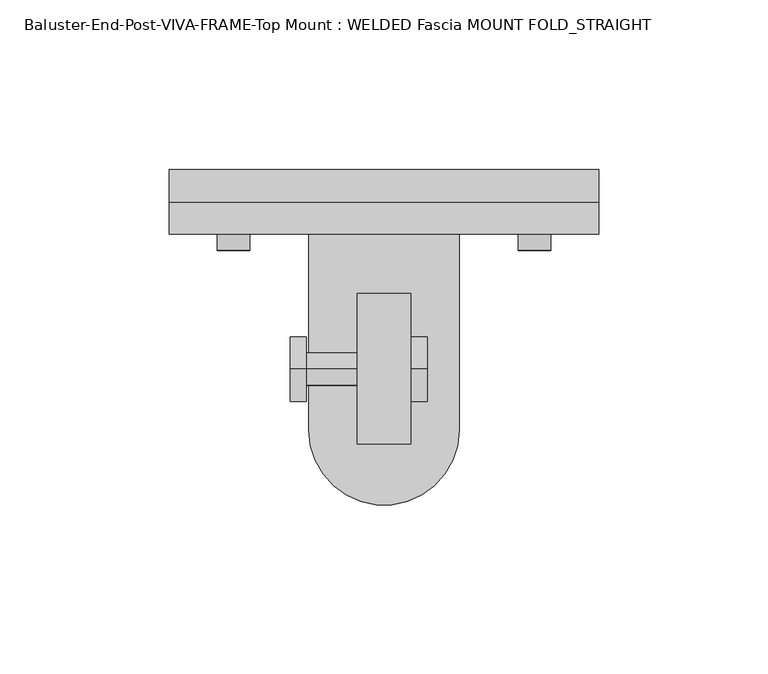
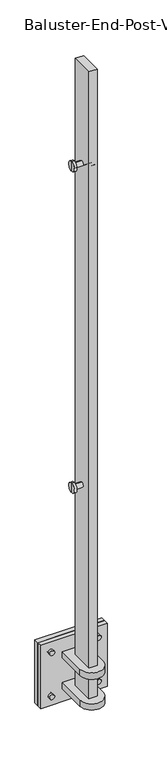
"""IFC4 building model written with IfcOpenShell, lengths in millimetres: proxy geometry, Baluster-End-Post-VIVA-FRAME-Top Mount : WELDED Fascia MOUNT FOLD_STRAIGHT."""

from ifc_helpers import new_model, si_unit, point, frame, frame_2d, origin, place, context, project, spatial, polyline, circle_curve, trimmed, segment, composite_curve, outline, extrude, source, transform, mapped, element, save
from ifc_brep_helpers import plane_surface, cylinder_surface, advanced_brep


def baluster_end_post_viva_frame_top_mount_welded_fascia_mount_7cfda481(model_context):
    return source(origin(), model_context, "Body", "SolidModel", [
        extrude(outline(polyline([(7.9375, -153.1423118), (-7.9375, -153.1423118), (-7.9375, -108.6923118), (7.9375, -108.6923118), (7.9375, -153.1423118)])), frame((0.0, 0.0, -183.7786931), z_axis=(0.0, 0.0, 1.0), x_axis=(1.0, 0.0, 0.0)), (0.0, 0.0, 1.0), 1269.9476704),
        extrude(outline(composite_curve([segment(polyline([(-22.225, -148.7552651), (-22.225, -90.8543584), (22.225, -90.8543584), (22.225, -148.7552651)]), True, "CONTINUOUS"), segment(trimmed(circle_curve(frame_2d((0.0, -148.7552651)), 22.225), [point((22.225, -148.7552651))], [point((-22.225, -148.7552651))], False, "CARTESIAN"), True, "CONTINUOUS")], self_intersect=False)), frame((0.0, 0.0, -190.0345072), z_axis=(0.0, 0.0, 1.0), x_axis=(1.0, 0.0, 0.0)), (0.0, 0.0, 1.0), 12.7),
        extrude(outline(composite_curve([segment(polyline([(22.225, -90.8543584), (22.225, -148.7552651)]), True, "CONTINUOUS"), segment(trimmed(circle_curve(frame_2d((0.0, -148.7552651)), 22.225), [point((22.225, -148.7552651))], [point((-22.225, -148.7552651))], False, "CARTESIAN"), True, "CONTINUOUS"), segment(polyline([(-22.225, -148.7552651), (-22.225, -90.8543584), (22.225, -90.8543584)]), True, "CONTINUOUS")], self_intersect=False)), frame((0.0, 0.0, -128.1093072), z_axis=(0.0, 0.0, 1.0), x_axis=(1.0, 0.0, 0.0)), (0.0, 0.0, 1.0), 12.7),
        extrude(outline(composite_curve([segment(trimmed(circle_curve(frame_2d((-107.4591072, 44.4449319)), 4.7752), [point((-107.4591072, 49.2201319))], [point((-107.4591072, 39.6697319))], False, "CARTESIAN"), True, "CONTINUOUS"), segment(trimmed(circle_curve(frame_2d((-107.4591072, 44.4449319)), 4.7752), [point((-107.4591072, 39.6697319))], [point((-107.4591072, 49.2201319))], False, "CARTESIAN"), True, "CONTINUOUS")], self_intersect=False)), frame((0.0, -95.6295584, 0.0), z_axis=(0.0, 1.0, 0.0), x_axis=(0.0, 0.0, 1.0)), (0.0, 0.0, 1.0), 14.3002),
        extrude(outline(composite_curve([segment(trimmed(circle_curve(frame_2d((-107.4591072, -44.4449319)), 4.7752), [point((-107.4591072, -39.6697319))], [point((-107.4591072, -49.2201319))], False, "CARTESIAN"), True, "CONTINUOUS"), segment(trimmed(circle_curve(frame_2d((-107.4591072, -44.4449319)), 4.7752), [point((-107.4591072, -49.2201319))], [point((-107.4591072, -39.6697319))], False, "CARTESIAN"), True, "CONTINUOUS")], self_intersect=False)), frame((0.0, -95.6295584, 0.0), z_axis=(0.0, 1.0, 0.0), x_axis=(0.0, 0.0, 1.0)), (0.0, 0.0, 1.0), 14.3002),
        extrude(outline(composite_curve([segment(trimmed(circle_curve(frame_2d((-196.3591072, -44.4449319)), 4.7752), [point((-196.3591072, -39.6697319))], [point((-196.3591072, -49.2201319))], False, "CARTESIAN"), True, "CONTINUOUS"), segment(trimmed(circle_curve(frame_2d((-196.3591072, -44.4449319)), 4.7752), [point((-196.3591072, -49.2201319))], [point((-196.3591072, -39.6697319))], False, "CARTESIAN"), True, "CONTINUOUS")], self_intersect=False)), frame((0.0, -95.6295584, 0.0), z_axis=(0.0, 1.0, 0.0), x_axis=(0.0, 0.0, 1.0)), (0.0, 0.0, 1.0), 14.3002),
        extrude(outline(composite_curve([segment(trimmed(circle_curve(frame_2d((-196.3591072, 44.4449319)), 4.7752), [point((-196.3591072, 49.2201319))], [point((-196.3591072, 39.6697319))], False, "CARTESIAN"), True, "CONTINUOUS"), segment(trimmed(circle_curve(frame_2d((-196.3591072, 44.4449319)), 4.7752), [point((-196.3591072, 39.6697319))], [point((-196.3591072, 49.2201319))], False, "CARTESIAN"), True, "CONTINUOUS")], self_intersect=False)), frame((0.0, -95.6295584, 0.0), z_axis=(0.0, 1.0, 0.0), x_axis=(0.0, 0.0, 1.0)), (0.0, 0.0, 1.0), 14.3002),
        extrude(outline(polyline([(63.4980216, -81.3293584), (-63.4980216, -81.3293584), (-63.4980216, -71.8043584), (63.4980216, -71.8043584), (63.4980216, -81.3293584)])), frame((0.0, 0.0, -215.4091072), z_axis=(0.0, 0.0, 1.0), x_axis=(1.0, 0.0, 0.0)), (0.0, 0.0, 1.0), 127.0),
        extrude(outline(polyline([(63.4980216, -90.8543584), (-63.4980216, -90.8543584), (-63.4980216, -81.3293584), (63.4980216, -81.3293584), (63.4980216, -90.8543584)])), frame((0.0, 0.0, -215.4091072), z_axis=(0.0, 0.0, 1.0), x_axis=(1.0, 0.0, 0.0)), (0.0, 0.0, 1.0), 127.0),
        advanced_brep(
        [(-27.7749, -130.9116, 231.7496), (-27.7749, -130.9116, 250.8504), (-27.7749, -130.9116, 241.3), (-22.9997, -130.9116, 231.7496), (-22.9997, -130.9116, 250.8504), (-22.9997, -130.9116, 236.5248), (-22.9997, -130.9116, 246.0752), (7.9375, -130.9116, 236.5248), (7.9375, -130.9116, 246.0752), (7.9375, -130.9116, 231.7496), (7.9375, -130.9116, 250.8504), (12.7127, -130.9116, 231.7496), (12.7127, -130.9116, 250.8504), (12.7127, -130.9116, 241.3)],
        [
            (0, 1, circle_curve(frame((-27.7749, -130.9116, 241.3), z_axis=(-1.0, 0.0, 0.0), x_axis=(0.0, 0.0, 1.0)), 9.5504)),
            (1, 2),
            (2, 0),
            (1, 0, circle_curve(frame((-27.7749, -130.9116, 241.3), z_axis=(-1.0, 0.0, 0.0), x_axis=(0.0, 0.0, 1.0)), 9.5504)),
            (3, 4, circle_curve(frame((-22.9997, -130.9116, 241.3), z_axis=(-1.0, 0.0, 0.0), x_axis=(0.0, 0.0, 1.0)), 9.5504)),
            (4, 1),
            (0, 3),
            (4, 3, circle_curve(frame((-22.9997, -130.9116, 241.3), z_axis=(-1.0, 0.0, 0.0), x_axis=(0.0, 0.0, 1.0)), 9.5504)),
            (5, 6, circle_curve(frame((-22.9997, -130.9116, 241.3), z_axis=(-1.0, 0.0, 0.0), x_axis=(0.0, 0.0, 1.0)), 4.7752)),
            (6, 4),
            (3, 5),
            (6, 5, circle_curve(frame((-22.9997, -130.9116, 241.3), z_axis=(-1.0, 0.0, 0.0), x_axis=(0.0, 0.0, 1.0)), 4.7752)),
            (7, 8, circle_curve(frame((7.9375, -130.9116, 241.3), z_axis=(-1.0, 0.0, 0.0), x_axis=(0.0, 0.0, 1.0)), 4.7752)),
            (8, 6),
            (5, 7),
            (8, 7, circle_curve(frame((7.9375, -130.9116, 241.3), z_axis=(-1.0, 0.0, 0.0), x_axis=(0.0, 0.0, 1.0)), 4.7752)),
            (9, 10, circle_curve(frame((7.9375, -130.9116, 241.3), z_axis=(-1.0, 0.0, 0.0), x_axis=(0.0, 0.0, 1.0)), 9.5504)),
            (10, 8),
            (7, 9),
            (10, 9, circle_curve(frame((7.9375, -130.9116, 241.3), z_axis=(-1.0, 0.0, 0.0), x_axis=(0.0, 0.0, 1.0)), 9.5504)),
            (11, 12, circle_curve(frame((12.7127, -130.9116, 241.3), z_axis=(-1.0, 0.0, 0.0), x_axis=(0.0, 0.0, 1.0)), 9.5504)),
            (12, 10),
            (9, 11),
            (12, 11, circle_curve(frame((12.7127, -130.9116, 241.3), z_axis=(-1.0, 0.0, 0.0), x_axis=(0.0, 0.0, 1.0)), 9.5504)),
            (13, 12),
            (11, 13),
        ],
        [
            plane_surface(frame((-27.7749, -130.9116, 241.3), z_axis=(-1.0, 0.0, 0.0), x_axis=(0.0, 0.0, 1.0))),
            cylinder_surface(frame((-3419.3552571, -130.9116, 241.3), z_axis=(1.0, 0.0, 0.0), x_axis=(0.0, 0.0, 1.0)), 9.5504),
            plane_surface(frame((-22.9997, -130.9116, 241.3), z_axis=(1.0, 0.0, 0.0), x_axis=(0.0, 0.0, 1.0))),
            cylinder_surface(frame((-3419.3552571, -130.9116, 241.3), z_axis=(1.0, 0.0, 0.0), x_axis=(0.0, 0.0, 1.0)), 4.7752),
            plane_surface(frame((7.9375, -130.9116, 241.3), z_axis=(-1.0, 0.0, 0.0), x_axis=(0.0, 0.0, 1.0))),
            plane_surface(frame((12.7127, -130.9116, 241.3), z_axis=(1.0, 0.0, 0.0), x_axis=(0.0, 0.0, 1.0))),
        ],
        [
            (0, [[1, 2, 3]]),
            (0, [[4, -3, -2]]),
            (1, [[5, 6, -1, 7]]),
            (1, [[8, -7, -4, -6]]),
            (2, [[9, 10, -5, 11]]),
            (2, [[12, -11, -8, -10]]),
            (3, [[13, 14, -9, 15]]),
            (3, [[16, -15, -12, -14]]),
            (4, [[17, 18, -13, 19]]),
            (4, [[20, -19, -16, -18]]),
            (1, [[21, 22, -17, 23]]),
            (1, [[24, -23, -20, -22]]),
            (5, [[25, -21, 26]]),
            (5, [[-26, -24, -25]]),
        ],
    ),
        advanced_brep(
        [(-27.7749, -130.9116, 879.4559555), (-27.7749, -130.9116, 898.5567555), (-27.7749, -130.9116, 889.0063555), (-22.9997, -130.9116, 879.4559555), (-22.9997, -130.9116, 898.5567555), (-22.9997, -130.9116, 884.2311555), (-22.9997, -130.9116, 893.7815555), (7.9375, -130.9116, 884.2311555), (7.9375, -130.9116, 893.7815555), (7.9375, -130.9116, 879.4559555), (7.9375, -130.9116, 898.5567555), (12.7127, -130.9116, 879.4559555), (12.7127, -130.9116, 898.5567555), (12.7127, -130.9116, 889.0063555)],
        [
            (0, 1, circle_curve(frame((-27.7749, -130.9116, 889.0063555), z_axis=(-1.0, 0.0, 0.0), x_axis=(0.0, 0.0, 1.0)), 9.5504)),
            (1, 2),
            (2, 0),
            (1, 0, circle_curve(frame((-27.7749, -130.9116, 889.0063555), z_axis=(-1.0, 0.0, 0.0), x_axis=(0.0, 0.0, 1.0)), 9.5504)),
            (3, 4, circle_curve(frame((-22.9997, -130.9116, 889.0063555), z_axis=(-1.0, 0.0, 0.0), x_axis=(0.0, 0.0, 1.0)), 9.5504)),
            (4, 1),
            (0, 3),
            (4, 3, circle_curve(frame((-22.9997, -130.9116, 889.0063555), z_axis=(-1.0, 0.0, 0.0), x_axis=(0.0, 0.0, 1.0)), 9.5504)),
            (5, 6, circle_curve(frame((-22.9997, -130.9116, 889.0063555), z_axis=(-1.0, 0.0, 0.0), x_axis=(0.0, 0.0, 1.0)), 4.7752)),
            (6, 4),
            (3, 5),
            (6, 5, circle_curve(frame((-22.9997, -130.9116, 889.0063555), z_axis=(-1.0, 0.0, 0.0), x_axis=(0.0, 0.0, 1.0)), 4.7752)),
            (7, 8, circle_curve(frame((7.9375, -130.9116, 889.0063555), z_axis=(-1.0, 0.0, 0.0), x_axis=(0.0, 0.0, 1.0)), 4.7752)),
            (8, 6),
            (5, 7),
            (8, 7, circle_curve(frame((7.9375, -130.9116, 889.0063555), z_axis=(-1.0, 0.0, 0.0), x_axis=(0.0, 0.0, 1.0)), 4.7752)),
            (9, 10, circle_curve(frame((7.9375, -130.9116, 889.0063555), z_axis=(-1.0, 0.0, 0.0), x_axis=(0.0, 0.0, 1.0)), 9.5504)),
            (10, 8),
            (7, 9),
            (10, 9, circle_curve(frame((7.9375, -130.9116, 889.0063555), z_axis=(-1.0, 0.0, 0.0), x_axis=(0.0, 0.0, 1.0)), 9.5504)),
            (11, 12, circle_curve(frame((12.7127, -130.9116, 889.0063555), z_axis=(-1.0, 0.0, 0.0), x_axis=(0.0, 0.0, 1.0)), 9.5504)),
            (12, 10),
            (9, 11),
            (12, 11, circle_curve(frame((12.7127, -130.9116, 889.0063555), z_axis=(-1.0, 0.0, 0.0), x_axis=(0.0, 0.0, 1.0)), 9.5504)),
            (13, 12),
            (11, 13),
        ],
        [
            plane_surface(frame((-27.7749, -130.9116, 889.0063555), z_axis=(-1.0, 0.0, 0.0), x_axis=(0.0, 0.0, 1.0))),
            cylinder_surface(frame((-3419.3552571, -130.9116, 889.0063555), z_axis=(1.0, 0.0, 0.0), x_axis=(0.0, 0.0, 1.0)), 9.5504),
            plane_surface(frame((-22.9997, -130.9116, 889.0063555), z_axis=(1.0, 0.0, 0.0), x_axis=(0.0, 0.0, 1.0))),
            cylinder_surface(frame((-3419.3552571, -130.9116, 889.0063555), z_axis=(1.0, 0.0, 0.0), x_axis=(0.0, 0.0, 1.0)), 4.7752),
            plane_surface(frame((7.9375, -130.9116, 889.0063555), z_axis=(-1.0, 0.0, 0.0), x_axis=(0.0, 0.0, 1.0))),
            plane_surface(frame((12.7127, -130.9116, 889.0063555), z_axis=(1.0, 0.0, 0.0), x_axis=(0.0, 0.0, 1.0))),
        ],
        [
            (0, [[1, 2, 3]]),
            (0, [[4, -3, -2]]),
            (1, [[5, 6, -1, 7]]),
            (1, [[8, -7, -4, -6]]),
            (2, [[9, 10, -5, 11]]),
            (2, [[12, -11, -8, -10]]),
            (3, [[13, 14, -9, 15]]),
            (3, [[16, -15, -12, -14]]),
            (4, [[17, 18, -13, 19]]),
            (4, [[20, -19, -16, -18]]),
            (1, [[21, 22, -17, 23]]),
            (1, [[24, -23, -20, -22]]),
            (5, [[25, -21, 26]]),
            (5, [[-26, -24, -25]]),
        ],
    ),
    ])


if __name__ == "__main__":
    model = new_model("IFC4")
    model_context = context("Model", 3, world=origin())
    ifc_project = project(units=[si_unit("LENGTHUNIT", "METRE", prefix="MILLI")], contexts=[model_context])
    site = spatial("IfcSite", under=ifc_project)
    building = spatial("IfcBuilding", under=site)
    placement = place(None, origin())
    baluster_end_post_viva_frame_top_mount_welded_fascia_mount_shape = baluster_end_post_viva_frame_top_mount_welded_fascia_mount_7cfda481(model_context)
    element("IfcBuildingElementProxy", 1, Name="Baluster-End-Post-VIVA-FRAME-Top Mount : WELDED Fascia MOUNT FOLD_STRAIGHT", ObjectType="Baluster-End-Post-VIVA-FRAME-Top Mount : WELDED Fascia MOUNT FOLD_STRAIGHT", at=placement, inside=building, context=model_context, shape_type="MappedRepresentation", body=[
        mapped(baluster_end_post_viva_frame_top_mount_welded_fascia_mount_shape, transform((0.0, 0.0, 0.0), x_axis=(1.0, 0.0, 0.0), y_axis=(0.0, 1.0, 0.0), z_axis=(0.0, 0.0, 1.0))),
    ])
    save(model, "model.ifc")
